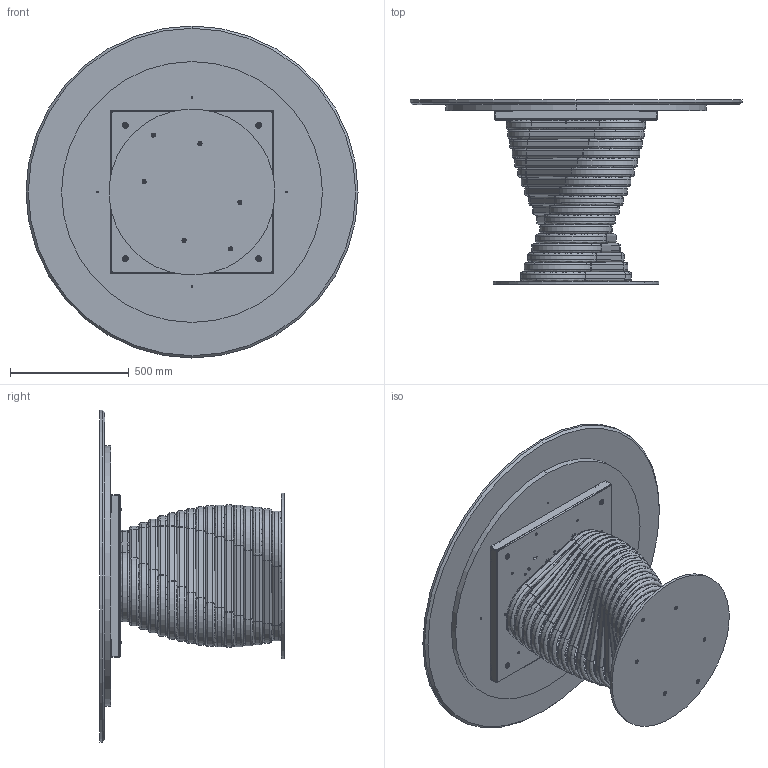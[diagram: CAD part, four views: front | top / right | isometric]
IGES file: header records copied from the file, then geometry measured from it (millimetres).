
Start section: SolidWorks IGES file using analytic representation for surfaces
Global section: file name: Y:\eforma\TECNICO\SOLIDWORKS\E-FORMA\1-TAVOLI\ROTOLO\02 parts\RO06M.IGS; native system: SolidWorks 2022; preprocessor: SolidWorks 2022; author: eforma.tech; date: 240807.151021; units: millimetre
Bounding box: 1400 x 777 x 1400 mm (x, y, z)
Volume: 66133605.9 mm3; surface area: 12014441.4 mm2
Topology: 98 solids, 98 shells, 1802 faces, 4390 edges, 2755 vertices
Faces by surface type: revolution 1058, plane 744
